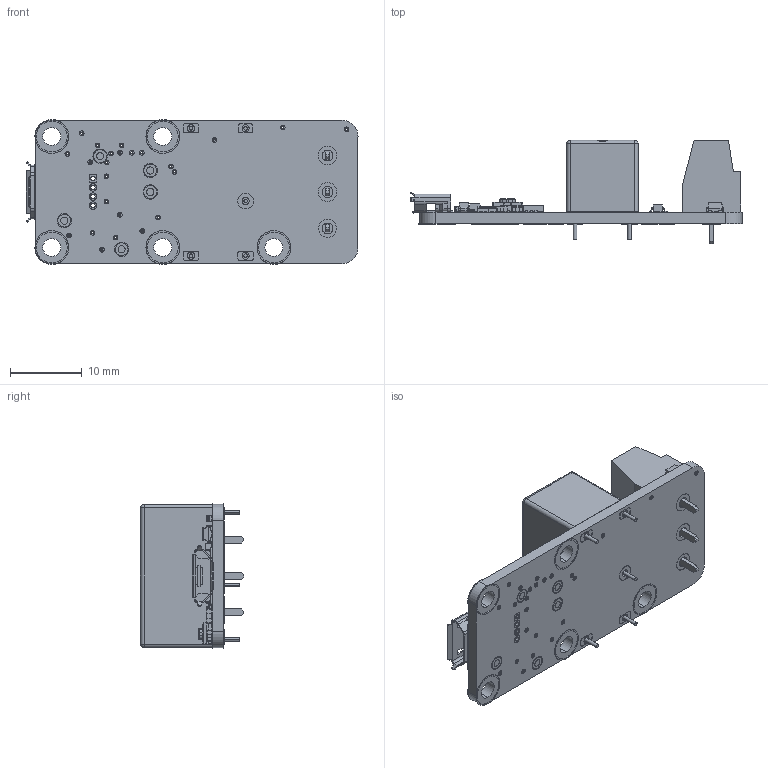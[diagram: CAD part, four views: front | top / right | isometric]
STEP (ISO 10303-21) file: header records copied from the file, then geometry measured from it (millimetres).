
FILE_DESCRIPTION (( 'STEP AP214' ), '1' );
FILE_NAME ('yoctorelayHiPower1.STEP', '2014-01-28T11:04:40', ( 'martinm' ), ( '' ), 'SwSTEP 2.0', 'SolidWorks 2008', '' );
FILE_SCHEMA (( 'AUTOMOTIVE_DESIGN' ));
Length unit declared in the file: millimetre
Products named in the file (23): yoctorelayHiPower1OutLine; C0603C106M9PACTU; GRM188F51E104ZA01D; GRM188R61C225KE15D; GRM188R60J105KA01D; GRM219F51C105ZA01D; 1729131; CRCW060310K0JNEB; WSLP0603R0100FEA; RK73H1JTTD1242F; CRCW0603100KJNEA; RK73H1JTTD4702F; CRCW0603100RJNEB; MCP1703T-3302E_CB; PE014005; KMR211NGLFS; NUD3105LT1G; PIC24FJ64GB002-I_ML; ZX62-B-5PA(11); ASMT-TBBM-NP902; ASMT-TGBM-NT502; FAN4010IL6X_F113; yoctorelayHiPower1
Assembly tree (26 placements, depth 2):
  yoctorelayHiPower1
    C0603C106M9PACTU
    1729131
    CRCW060310K0JNEB
    WSLP0603R0100FEA
    CRCW0603100RJNEB
    FAN4010IL6X_F113
    GRM188R61C225KE15D
    RK73H1JTTD1242F
    ASMT-TGBM-NT502  x2
    GRM188F51E104ZA01D  x4
    PIC24FJ64GB002-I_ML
    PE014005
    KMR211NGLFS
    ASMT-TBBM-NP902
    NUD3105LT1G
    GRM219F51C105ZA01D
    MCP1703T-3302E_CB
    GRM188R60J105KA01D
    CRCW0603100KJNEA
    ZX62-B-5PA(11)
    yoctorelayHiPower1OutLine
    RK73H1JTTD4702F
Bounding box: 46.35 x 14.41 x 20.2 mm (x, y, z)
Volume: 4451.6 mm3; surface area: 4607 mm2
Topology: 40 solids, 40 shells, 4524 faces, 11732 edges, 7628 vertices
Faces by surface type: plane 2944, cylinder 1056, bspline 440, sphere 68, torus 16
Entity records: 197331 total; most frequent: CARTESIAN_POINT 49792, ORIENTED_EDGE 22424, DIRECTION 20189, EDGE_CURVE 11212, LINE 8237, VECTOR 8237, VERTEX_POINT 7370, AXIS2_PLACEMENT_3D 5976
